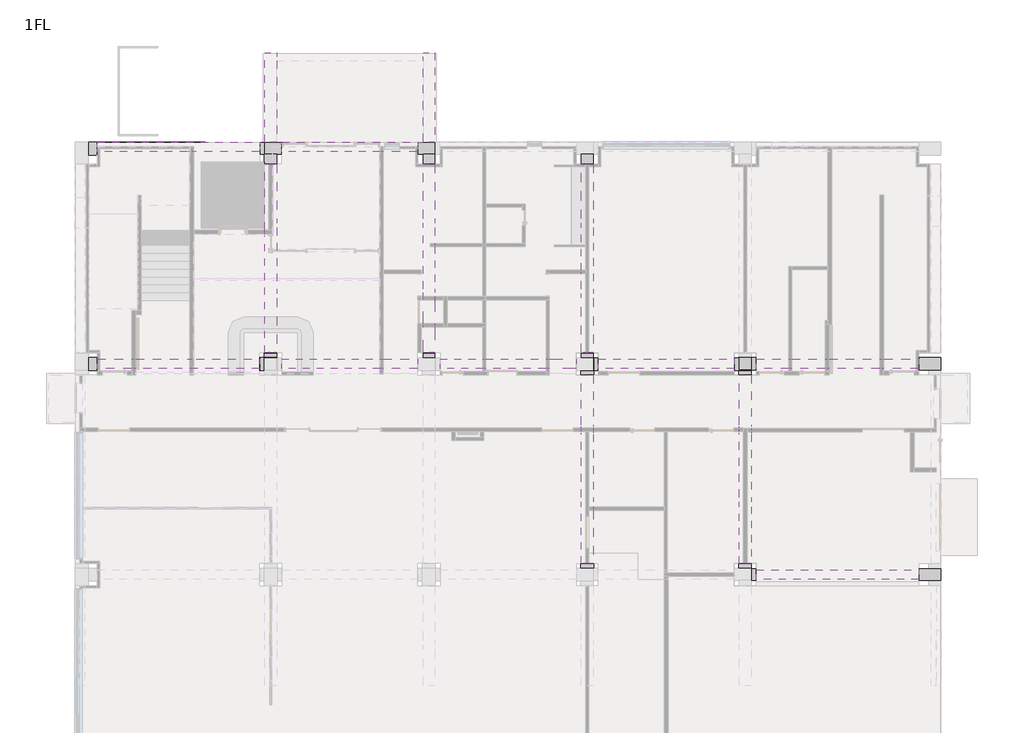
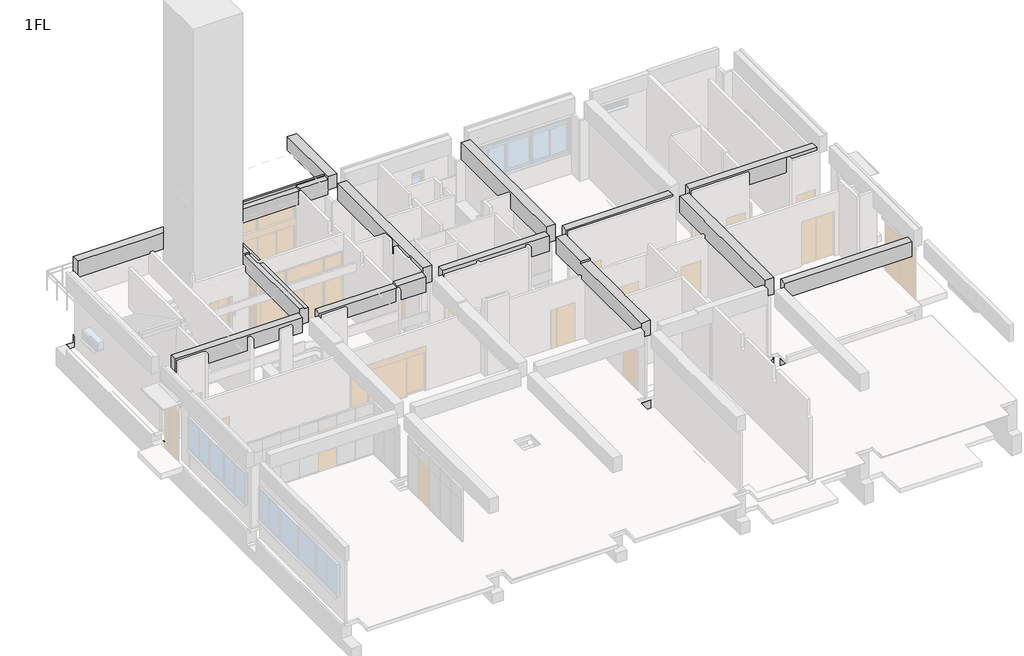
# One storey, part 6 of 7: 41 beams.
"""IFC4 building model written with IfcOpenShell, lengths in millimetres."""

from ifc_helpers import new_model, si_unit, frame, origin, place, context, project, spatial, polyline, outline, extrude, faceted_brep, element, save

model = new_model("IFC4")

# Units and contexts
model_context = context("Model", 3, world=origin())
ifc_project = project(units=[si_unit("LENGTHUNIT", "METRE", prefix="MILLI")], contexts=[model_context])

# Site, building, storey
site = spatial("IfcSite", under=ifc_project)
building = spatial("IfcBuilding", under=site)
storey = spatial("IfcBuildingStorey", under=building, Name="1FL", Elevation=0.0)

# Beams
placement = place(None, origin())
element("IfcBeam", 1, ObjectType="営_RC梁 : 2-RG2 350*850", at=placement, inside=storey, context=model_context, shape_type="SweptSolid", body=[
    extrude(outline(polyline([(25420.0, 7825.0), (25420.0, 8175.0), (31580.0, 8175.0), (31580.0, 7825.0), (25420.0, 7825.0)])), frame((0.0, 0.0, 3150.0), z_axis=(0.0, 0.0, 1.0), x_axis=(1.0, 0.0, 0.0)), (0.0, 0.0, 1.0), 790.0),
])
element("IfcBeam", 2, ObjectType="営_RC梁 : 2-RG2 350*850", at=placement, inside=storey, context=model_context, shape_type="Brep", body=[
    faceted_brep([(420.0, 15825.0, 3150.0), (1725.0, 15825.0, 3150.0), (1875.0, 15825.0, 3150.0), (6580.0, 15825.0, 3150.0), (6580.0, 15825.0, 3940.0), (420.0, 15825.0, 3940.0), (6580.0, 16175.0, 3150.0), (420.0, 16175.0, 3150.0), (1725.0, 16175.0, 3150.0), (1875.0, 16175.0, 3150.0), (420.0, 16175.0, 3940.0), (3825.0, 16175.0, 3940.0), (4175.0, 16175.0, 3940.0), (6580.0, 16175.0, 3940.0)], [[[0, 1, 2, 3, 4, 5]], [[6, 3, 2, 1, 0, 7, 8, 9]], [[6, 9, 8, 7, 10, 11, 12, 13]], [[3, 6, 13, 4]], [[7, 0, 5, 10]], [[5, 4, 13, 12, 11, 10]]]),
])
element("IfcBeam", 3, ObjectType="営_RC梁 : 2-RG2 350*850", at=placement, inside=storey, context=model_context, shape_type="Brep", body=[
    faceted_brep([(7420.0, 15825.0, 3150.0), (11140.0, 15825.0, 3150.0), (11260.0, 15825.0, 3150.0), (12580.0, 15825.0, 3150.0), (12580.0, 15825.0, 3940.0), (11200.0, 15825.0, 3940.0), (11200.0, 15825.0, 3850.0), (11140.0, 15825.0, 3850.0), (7420.0, 15825.0, 3850.0), (7420.0, 16175.0, 3150.0), (11140.0, 16175.0, 3150.0), (11260.0, 16175.0, 3150.0), (12580.0, 16175.0, 3150.0), (7420.0, 16175.0, 3850.0), (11140.0, 16175.0, 3850.0), (11200.0, 16175.0, 3850.0), (11200.0, 16175.0, 3940.0), (12580.0, 16175.0, 3940.0)], [[[0, 1, 2, 3, 4, 5, 6, 7, 8]], [[0, 9, 10, 11, 12, 3, 2, 1]], [[12, 11, 10, 9, 13, 14, 15, 16, 17]], [[9, 0, 8, 13]], [[3, 12, 17, 4]], [[6, 15, 14, 13, 8, 7]], [[15, 6, 5, 16]], [[5, 4, 17, 16]]]),
])
element("IfcBeam", 4, ObjectType="営_RC梁 : 2-RG2 350*850", at=placement, inside=storey, context=model_context, shape_type="Brep", body=[
    faceted_brep([(13420.0, 15825.0, 3150.0), (15040.0, 15825.0, 3150.0), (15160.0, 15825.0, 3150.0), (17440.0, 15825.0, 3150.0), (17560.0, 15825.0, 3150.0), (18580.0, 15825.0, 3150.0), (18580.0, 15825.0, 3940.0), (13420.0, 15825.0, 3940.0), (13420.0, 16175.0, 3150.0), (15040.0, 16175.0, 3150.0), (15160.0, 16175.0, 3150.0), (17440.0, 16175.0, 3150.0), (17560.0, 16175.0, 3150.0), (18580.0, 16175.0, 3150.0), (13420.0, 16175.0, 3940.0), (18580.0, 16175.0, 3940.0)], [[[0, 1, 2, 3, 4, 5, 6, 7]], [[0, 8, 9, 10, 11, 12, 13, 5, 4, 3, 2, 1]], [[13, 12, 11, 10, 9, 8, 14, 15]], [[8, 0, 7, 14]], [[5, 13, 15, 6]], [[7, 6, 15, 14]]]),
])
element("IfcBeam", 5, ObjectType="営_RC梁 : 2-RG2 350*850", at=placement, inside=storey, context=model_context, shape_type="SweptSolid", body=[
    extrude(outline(polyline([(19420.0, 15825.0), (19420.0, 16175.0), (24580.0, 16175.0), (24580.0, 15825.0), (19420.0, 15825.0)])), frame((0.0, 0.0, 3150.0), z_axis=(0.0, 0.0, 1.0), x_axis=(1.0, 0.0, 0.0)), (0.0, 0.0, 1.0), 790.0),
])
element("IfcBeam", 6, ObjectType="営_RC梁 : 2-RG2 350*850", at=placement, inside=storey, context=model_context, shape_type="Brep", body=[
    faceted_brep([(25420.0, 15825.0, 3150.0), (26640.0, 15825.0, 3150.0), (26760.0, 15825.0, 3150.0), (28025.0, 15825.0, 3150.0), (28175.0, 15825.0, 3150.0), (30105.0, 15825.0, 3150.0), (30255.0, 15825.0, 3150.0), (31580.0, 15825.0, 3150.0), (31580.0, 15825.0, 3940.0), (25420.0, 15825.0, 3940.0), (25420.0, 16175.0, 3150.0), (26640.0, 16175.0, 3150.0), (26760.0, 16175.0, 3150.0), (28025.0, 16175.0, 3150.0), (28175.0, 16175.0, 3150.0), (30105.0, 16175.0, 3150.0), (30255.0, 16175.0, 3150.0), (31580.0, 16175.0, 3150.0), (25420.0, 16175.0, 3940.0), (31580.0, 16175.0, 3940.0)], [[[0, 1, 2, 3, 4, 5, 6, 7, 8, 9]], [[0, 10, 11, 12, 13, 14, 15, 16, 17, 7, 6, 5, 4, 3, 2, 1]], [[17, 16, 15, 14, 13, 12, 11, 10, 18, 19]], [[10, 0, 9, 18]], [[7, 17, 19, 8]], [[9, 8, 19, 18]]]),
])
element("IfcBeam", 7, ObjectType="営_RC梁 : 2-RG1 350*850", at=placement, inside=storey, context=model_context, shape_type="Brep", body=[
    faceted_brep([(420.0, 24050.0, 4000.0), (420.0, 24420.0, 4000.0), (420.0, 24420.0, 3150.0), (420.0, 24250.0, 3150.0), (420.0, 24050.0, 3150.0), (3925.0, 24050.0, 3150.0), (4075.0, 24050.0, 3150.0), (6580.0, 24050.0, 3150.0), (6580.0, 24050.0, 4000.0), (4175.0, 24050.0, 4000.0), (3825.0, 24050.0, 4000.0), (6580.0, 24420.0, 3150.0), (6580.0, 24250.0, 3150.0), (6580.0, 24420.0, 4000.0)], [[[0, 1, 2, 3, 4]], [[0, 4, 5, 6, 7, 8, 9, 10]], [[4, 3, 2, 11, 12, 7, 6, 5]], [[2, 1, 13, 11]], [[1, 0, 10, 9, 8, 13]], [[8, 7, 12, 11, 13]]]),
])
element("IfcBeam", 8, ObjectType="営_RC梁 : 2-RG1 350*850", at=placement, inside=storey, context=model_context, shape_type="Brep", body=[
    faceted_brep([(7420.0, 24420.0, 4000.0), (7420.0, 24420.0, 3150.0), (7420.0, 24250.0, 3150.0), (7420.0, 24050.0, 3150.0), (7420.0, 24050.0, 3850.0), (7420.0, 24250.0, 3850.0), (7420.0, 24335.0, 3850.0), (7420.0, 24335.0, 4000.0), (11140.0, 24050.0, 3150.0), (11260.0, 24050.0, 3150.0), (12580.0, 24050.0, 3150.0), (12580.0, 24050.0, 3940.0), (11200.0, 24050.0, 3940.0), (11200.0, 24050.0, 3850.0), (11140.0, 24050.0, 3850.0), (12580.0, 24420.0, 3150.0), (12580.0, 24250.0, 3150.0), (12580.0, 24420.0, 4000.0), (12580.0, 24335.0, 4000.0), (12580.0, 24335.0, 3940.0), (12580.0, 24250.0, 3940.0), (11200.0, 24335.0, 3850.0), (11200.0, 24250.0, 3850.0), (11200.0, 24250.0, 3940.0), (11200.0, 24335.0, 3940.0)], [[[0, 1, 2, 3, 4, 5, 6, 7]], [[3, 8, 9, 10, 11, 12, 13, 14, 4]], [[3, 2, 1, 15, 16, 10, 9, 8]], [[1, 0, 17, 15]], [[17, 0, 7, 18]], [[10, 16, 15, 17, 18, 19, 20, 11]], [[21, 6, 5, 4, 14, 13, 22]], [[21, 22, 13, 12, 23, 24]], [[6, 21, 24, 19, 18, 7]], [[19, 24, 23, 12, 11, 20]]]),
])
element("IfcBeam", 9, ObjectType="営_RC梁 : 2-4G12 450*900", at=placement, inside=storey, context=model_context, shape_type="Brep", body=[
    faceted_brep([(7225.0, 16420.0, 3100.0), (7225.0, 23580.0, 3100.0), (7225.0, 23580.0, 3850.0), (7225.0, 21515.0, 3850.0), (7225.0, 21165.0, 3850.0), (7225.0, 18845.0, 3850.0), (7225.0, 18495.0, 3850.0), (7225.0, 16420.0, 3850.0), (6775.0, 16420.0, 3100.0), (6775.0, 20925.0, 3100.0), (6775.0, 21075.0, 3100.0), (6775.0, 23580.0, 3100.0), (6925.0, 23580.0, 3100.0), (7075.0, 23580.0, 3100.0), (6775.0, 23580.0, 4000.0), (6775.0, 16420.0, 3940.0), (6775.0, 20825.0, 3940.0), (6775.0, 21000.0, 3940.0), (6775.0, 21000.0, 4000.0), (6775.0, 21075.0, 4000.0), (7000.0, 23580.0, 4000.0), (7000.0, 21000.0, 4000.0), (7000.0, 16420.0, 3850.0), (7000.0, 16420.0, 3940.0), (7000.0, 23580.0, 3850.0), (7000.0, 21000.0, 3940.0)], [[[0, 1, 2, 3, 4, 5, 6, 7]], [[0, 8, 9, 10, 11, 12, 13, 1]], [[14, 11, 10, 9, 8, 15, 16, 17, 18, 19]], [[20, 14, 19, 18, 21]], [[8, 0, 7, 22, 23, 15]], [[1, 13, 12, 11, 14, 20, 24, 2]], [[24, 22, 7, 6, 5, 4, 3, 2]], [[22, 24, 20, 21, 25, 23]], [[25, 17, 16, 15, 23]], [[17, 25, 21, 18]]]),
])
element("IfcBeam", 10, ObjectType="営_RC梁 : 2-4G12 450*900", at=placement, inside=storey, context=model_context, shape_type="Brep", body=[
    faceted_brep([(13225.0, 16420.0, 3100.0), (13225.0, 17400.0, 3100.0), (13225.0, 17520.0, 3100.0), (13225.0, 18430.0, 3100.0), (13225.0, 18550.0, 3100.0), (13225.0, 20450.0, 3100.0), (13225.0, 20570.0, 3100.0), (13225.0, 23580.0, 3100.0), (13225.0, 23580.0, 3940.0), (13225.0, 21515.0, 3940.0), (13225.0, 21165.0, 3940.0), (13225.0, 18845.0, 3940.0), (13225.0, 18495.0, 3940.0), (13225.0, 16420.0, 3940.0), (12775.0, 16420.0, 3100.0), (12775.0, 17400.0, 3100.0), (12775.0, 17520.0, 3100.0), (12775.0, 18430.0, 3100.0), (12775.0, 18550.0, 3100.0), (12775.0, 23580.0, 3100.0), (12775.0, 16420.0, 3940.0), (12775.0, 18495.0, 3940.0), (12775.0, 18845.0, 3940.0), (12775.0, 21165.0, 3940.0), (12775.0, 21515.0, 3940.0), (12775.0, 23580.0, 3940.0)], [[[0, 1, 2, 3, 4, 5, 6, 7, 8, 9, 10, 11, 12, 13]], [[0, 14, 15, 16, 17, 18, 19, 7, 6, 5, 4, 3, 2, 1]], [[19, 18, 17, 16, 15, 14, 20, 21, 22, 23, 24, 25]], [[14, 0, 13, 20]], [[7, 19, 25, 8]], [[13, 12, 11, 10, 9, 8, 25, 24, 23, 22, 21, 20]]]),
])
element("IfcBeam", 11, ObjectType="営_RC梁 : 2-4G12 450*900", at=placement, inside=storey, context=model_context, shape_type="Brep", body=[
    faceted_brep([(19225.0, 8420.0, 3100.0), (19225.0, 10440.0, 3100.0), (19225.0, 10560.0, 3100.0), (19225.0, 13440.0, 3100.0), (19225.0, 13560.0, 3100.0), (19225.0, 15580.0, 3100.0), (19225.0, 15580.0, 3940.0), (19225.0, 13675.0, 3940.0), (19225.0, 13500.0, 3940.0), (19225.0, 13500.0, 3850.0), (19225.0, 13325.0, 3850.0), (19225.0, 10925.0, 3850.0), (19225.0, 10575.0, 3850.0), (19225.0, 10560.0, 3850.0), (19225.0, 10440.0, 3850.0), (19225.0, 8420.0, 3850.0), (19060.0, 8420.0, 3100.0), (18940.0, 8420.0, 3100.0), (18775.0, 8420.0, 3100.0), (18775.0, 13440.0, 3100.0), (18775.0, 13560.0, 3100.0), (18775.0, 15580.0, 3100.0), (18775.0, 8420.0, 3850.0), (18775.0, 10575.0, 3850.0), (18775.0, 10925.0, 3850.0), (18775.0, 13325.0, 3850.0), (18775.0, 13500.0, 3850.0), (18775.0, 13500.0, 3940.0), (18775.0, 13675.0, 3940.0), (18775.0, 15580.0, 3940.0)], [[[0, 1, 2, 3, 4, 5, 6, 7, 8, 9, 10, 11, 12, 13, 14, 15]], [[0, 16, 17, 18, 19, 20, 21, 5, 4, 3, 2, 1]], [[21, 20, 19, 18, 22, 23, 24, 25, 26, 27, 28, 29]], [[18, 17, 16, 0, 15, 22]], [[5, 21, 29, 6]], [[9, 26, 25, 24, 23, 22, 15, 14, 13, 12, 11, 10]], [[26, 9, 8, 27]], [[8, 7, 6, 29, 28, 27]]]),
])
element("IfcBeam", 12, ObjectType="営_RC梁 : 2-4G12 450*900", at=placement, inside=storey, context=model_context, shape_type="Brep", body=[
    faceted_brep([(19225.0, 16420.0, 3100.0), (19225.0, 23580.0, 3100.0), (19225.0, 23580.0, 3940.0), (19225.0, 21515.0, 3940.0), (19225.0, 21165.0, 3940.0), (19225.0, 18845.0, 3940.0), (19225.0, 18495.0, 3940.0), (19225.0, 16420.0, 3940.0), (19060.0, 16420.0, 3100.0), (18940.0, 16420.0, 3100.0), (18775.0, 16420.0, 3100.0), (18775.0, 19430.0, 3100.0), (18775.0, 19550.0, 3100.0), (18775.0, 23580.0, 3100.0), (18940.0, 23580.0, 3100.0), (19060.0, 23580.0, 3100.0), (18775.0, 16420.0, 3940.0), (18775.0, 18495.0, 3940.0), (18775.0, 18845.0, 3940.0), (18775.0, 21165.0, 3940.0), (18775.0, 21515.0, 3940.0), (18775.0, 23580.0, 3940.0)], [[[0, 1, 2, 3, 4, 5, 6, 7]], [[0, 8, 9, 10, 11, 12, 13, 14, 15, 1]], [[13, 12, 11, 10, 16, 17, 18, 19, 20, 21]], [[10, 9, 8, 0, 7, 16]], [[1, 15, 14, 13, 21, 2]], [[7, 6, 5, 4, 3, 2, 21, 20, 19, 18, 17, 16]]]),
])
element("IfcBeam", 13, ObjectType="営_RC梁 : 2-4G12 450*900", at=placement, inside=storey, context=model_context, shape_type="Brep", body=[
    faceted_brep([(25225.0, 8420.0, 3100.0), (25225.0, 13405.0, 3100.0), (25225.0, 13555.0, 3100.0), (25225.0, 15580.0, 3100.0), (25225.0, 15580.0, 3940.0), (25225.0, 13675.0, 3940.0), (25225.0, 13325.0, 3940.0), (25225.0, 10925.0, 3940.0), (25225.0, 10575.0, 3940.0), (25225.0, 8420.0, 3940.0), (25075.0, 8420.0, 3100.0), (24925.0, 8420.0, 3100.0), (24775.0, 8420.0, 3100.0), (24775.0, 13440.0, 3100.0), (24775.0, 13560.0, 3100.0), (24775.0, 15580.0, 3100.0), (24775.0, 8420.0, 3940.0), (24775.0, 10575.0, 3940.0), (24775.0, 10925.0, 3940.0), (24775.0, 13325.0, 3940.0), (24775.0, 13675.0, 3940.0), (24775.0, 15580.0, 3940.0)], [[[0, 1, 2, 3, 4, 5, 6, 7, 8, 9]], [[0, 10, 11, 12, 13, 14, 15, 3, 2, 1]], [[15, 14, 13, 12, 16, 17, 18, 19, 20, 21]], [[12, 11, 10, 0, 9, 16]], [[3, 15, 21, 4]], [[9, 8, 7, 6, 5, 4, 21, 20, 19, 18, 17, 16]]]),
])
element("IfcBeam", 14, ObjectType="営_RC梁 : FG1 450*1200", at=placement, inside=storey, context=model_context, shape_type="Brep", body=[
    faceted_brep([(420.0, 23930.0, -400.0), (400.0, 23930.0, -400.0), (70.0, 23930.0, -400.0), (70.0, 23930.0, -1300.0), (1500.0, 23930.0, -1300.0), (4124.0, 23930.0, -1300.0), (4514.0, 23930.0, -1300.0), (4514.0, 23930.0, -10.0), (4124.0, 23930.0, -10.0), (4075.0, 23930.0, -10.0), (4075.0, 23930.0, -160.0), (420.0, 23930.0, -160.0), (70.0, 24420.0, -1300.0), (1500.0, 24420.0, -1300.0), (4124.0, 24420.0, -1300.0), (4514.0, 24420.0, -1300.0), (4514.0, 24400.0, -1300.0), (4514.0, 23950.0, -1300.0), (420.0, 24420.0, -400.0), (420.0, 24420.0, -10.0), (4514.0, 24420.0, -10.0), (4514.0, 24420.0, -300.0), (70.0, 24420.0, -400.0), (4514.0, 24250.0, -10.0), (420.0, 24250.0, -10.0), (4075.0, 24250.0, -10.0), (420.0, 24250.0, -160.0), (4075.0, 24250.0, -160.0)], [[[0, 1, 2, 3, 4, 5, 6, 7, 8, 9, 10, 11]], [[3, 12, 13, 14, 15, 16, 17, 6, 5, 4]], [[18, 19, 20, 21, 15, 14, 13, 12, 22]], [[7, 23, 20, 19, 24, 25, 9, 8]], [[0, 18, 22, 2, 1]], [[18, 0, 11, 26, 24, 19]], [[3, 2, 22, 12]], [[7, 6, 17, 16, 15, 21, 20, 23]], [[27, 26, 11, 10]], [[25, 27, 10, 9]], [[27, 25, 24, 26]]]),
])
element("IfcBeam", 15, ObjectType="営_RC梁 : FG2 450*1200", at=placement, inside=storey, context=model_context, shape_type="Brep", body=[
    faceted_brep([(7227.3929084, 15755.0, -950.0), (6755.0, 15755.0, -950.0), (6600.0, 15755.0, -950.0), (6580.0, 15755.0, -950.0), (6580.0, 15755.0, -160.0), (420.0, 15755.0, -160.0), (420.0, 15755.0, -400.0), (400.0, 15755.0, -400.0), (70.0, 15755.0, -400.0), (70.0, 15755.0, -1300.0), (1500.0, 15755.0, -1300.0), (5350.0, 15755.0, -1300.0), (6755.0, 15755.0, -1300.0), (7227.3929084, 15755.0, -1300.0), (7225.0, 16245.0, -1300.0), (7225.0, 16000.0, -1300.0), (7227.3929084, 16000.0, -1300.0), (70.0, 16245.0, -1300.0), (1500.0, 16245.0, -1300.0), (5350.0, 16245.0, -1300.0), (6755.0, 16245.0, -1300.0), (6580.0, 16245.0, -950.0), (6600.0, 16245.0, -950.0), (6755.0, 16245.0, -950.0), (7225.0, 16245.0, -950.0), (70.0, 16245.0, -400.0), (400.0, 16245.0, -400.0), (420.0, 16245.0, -400.0), (420.0, 16245.0, -160.0), (6580.0, 16245.0, -160.0), (7227.3929084, 16000.0, -950.0), (7225.0, 16000.0, -950.0), (7225.0, 16225.0, -950.0)], [[[0, 1, 2, 3, 4, 5, 6, 7, 8, 9, 10, 11, 12, 13]], [[14, 15, 16, 13, 12, 11, 10, 9, 17, 18, 19, 20]], [[21, 22, 23, 24, 14, 20, 19, 18, 17, 25, 26, 27, 28, 29]], [[13, 16, 30, 0]], [[21, 3, 2, 1, 0, 30, 31, 32, 24, 23, 22]], [[3, 21, 29, 4]], [[6, 27, 26, 25, 8, 7]], [[27, 6, 5, 28]], [[15, 14, 24, 32, 31]], [[9, 8, 25, 17]], [[16, 15, 31, 30]], [[5, 4, 29, 28]]]),
])
element("IfcBeam", 16, ObjectType="営_RC梁 : FG3 450*1850", at=placement, inside=storey, context=model_context, shape_type="Brep", body=[
    faceted_brep([(19420.0, 15755.0, -950.0), (19400.0, 15755.0, -950.0), (19245.0, 15755.0, -950.0), (18772.6070916, 15755.0, -950.0), (18772.6070916, 15755.0, -1950.0), (20650.0, 15755.0, -1950.0), (23350.0, 15755.0, -1950.0), (24755.0, 15755.0, -1950.0), (25225.0, 15755.0, -1950.0), (25225.0, 15755.0, -1500.0), (24755.0, 15755.0, -1500.0), (24600.0, 15755.0, -1500.0), (24580.0, 15755.0, -1500.0), (24580.0, 15755.0, -250.0), (19420.0, 15755.0, -250.0), (24755.0, 15775.0, -1950.0), (25225.0, 15775.0, -1950.0), (18772.6070916, 16000.0, -1950.0), (18775.0, 16000.0, -1950.0), (18775.0, 16225.0, -1950.0), (19225.0, 16225.0, -1950.0), (20650.0, 16225.0, -1950.0), (23350.0, 16225.0, -1950.0), (24755.0, 16225.0, -1950.0), (18775.0, 16225.0, -950.0), (19225.0, 16225.0, -950.0), (19400.0, 16225.0, -950.0), (19420.0, 16225.0, -950.0), (19420.0, 16225.0, -250.0), (24580.0, 16225.0, -250.0), (24580.0, 16225.0, -1500.0), (24600.0, 16225.0, -1500.0), (24755.0, 16225.0, -1500.0), (18772.6070916, 16000.0, -950.0), (18775.0, 16000.0, -950.0), (25225.0, 15775.0, -1500.0), (24755.0, 15775.0, -1500.0)], [[[0, 1, 2, 3, 4, 5, 6, 7, 8, 9, 10, 11, 12, 13, 14]], [[15, 16, 8, 7, 6, 5, 4, 17, 18, 19, 20, 21, 22, 23]], [[24, 25, 26, 27, 28, 29, 30, 31, 32, 23, 22, 21, 20, 19]], [[17, 4, 3, 33]], [[0, 27, 26, 25, 24, 34, 33, 3, 2, 1]], [[27, 0, 14, 28]], [[12, 30, 29, 13]], [[9, 8, 16, 35]], [[30, 12, 11, 10, 9, 35, 36, 32, 31]], [[16, 15, 36, 35]], [[15, 23, 32, 36]], [[18, 17, 33, 34]], [[19, 18, 34, 24]], [[14, 13, 29, 28]]]),
])
element("IfcBeam", 17, ObjectType="営_RC梁 : FG4 450*2400", at=placement, inside=storey, context=model_context, shape_type="Brep", body=[
    faceted_brep([(25420.0, 15775.0, -1500.0), (25400.0, 15775.0, -1500.0), (25225.0, 15775.0, -1500.0), (24755.0, 15775.0, -1500.0), (24755.0, 15775.0, -1950.0), (24755.0, 15775.0, -2500.0), (25225.0, 15775.0, -2500.0), (26650.0, 15775.0, -2500.0), (30650.0, 15775.0, -2500.0), (31950.0, 15775.0, -2500.0), (32420.0, 15775.0, -2500.0), (32420.0, 15775.0, -1900.0), (31950.0, 15775.0, -1900.0), (31600.0, 15775.0, -1900.0), (31580.0, 15775.0, -1900.0), (31580.0, 15775.0, -160.0), (25420.0, 15775.0, -160.0), (32420.0, 16245.0, -2500.0), (24755.0, 16245.0, -2500.0), (26650.0, 16245.0, -2500.0), (30650.0, 16245.0, -2500.0), (24755.0, 16245.0, -1500.0), (24775.0, 16245.0, -1500.0), (25225.0, 16245.0, -1500.0), (25400.0, 16245.0, -1500.0), (25420.0, 16245.0, -1500.0), (25420.0, 16245.0, -160.0), (28025.0, 16245.0, -160.0), (28395.0, 16245.0, -160.0), (31580.0, 16245.0, -160.0), (31580.0, 16245.0, -1900.0), (31600.0, 16245.0, -1900.0), (32400.0, 16245.0, -1900.0), (32420.0, 16245.0, -1900.0), (32420.0, 16245.0, -1904.2105263), (24755.0, 16225.0, -1500.0)], [[[0, 1, 2, 3, 4, 5, 6, 7, 8, 9, 10, 11, 12, 13, 14, 15, 16]], [[17, 10, 9, 8, 7, 6, 5, 18, 19, 20]], [[21, 22, 23, 24, 25, 26, 27, 28, 29, 30, 31, 32, 33, 34, 17, 20, 19, 18]], [[25, 0, 16, 26]], [[14, 30, 29, 15]], [[10, 17, 34, 33, 11]], [[0, 25, 24, 23, 22, 21, 35, 3, 2, 1]], [[30, 14, 13, 12, 11, 33, 32, 31]], [[18, 5, 4, 3, 35, 21]], [[16, 15, 29, 28, 27, 26]]]),
])
element("IfcBeam", 18, ObjectType="営_RC梁 : FG4 450*2400", at=placement, inside=storey, context=model_context, shape_type="Brep", body=[
    faceted_brep([(24775.0, 7775.0, -1500.0), (24775.0, 7775.0, -2500.0), (25225.0, 7775.0, -2500.0), (26650.0, 7775.0, -2500.0), (26650.0, 7775.0, -2300.0), (30500.0, 7775.0, -2300.0), (30500.0, 7775.0, -2500.0), (31950.0, 7775.0, -2500.0), (32420.0, 7775.0, -2500.0), (32420.0, 7775.0, -1500.0), (31950.0, 7775.0, -1500.0), (31600.0, 7775.0, -1500.0), (31580.0, 7775.0, -1500.0), (31580.0, 7775.0, -160.0), (25420.0, 7775.0, -160.0), (25420.0, 7775.0, -1500.0), (25400.0, 7775.0, -1500.0), (25225.0, 7775.0, -1500.0), (32420.0, 8225.0, -2500.0), (30500.0, 8225.0, -2500.0), (31950.0, 8225.0, -2500.0), (24775.0, 8225.0, -2500.0), (24775.0, 8225.0, -1500.0), (25225.0, 8225.0, -1500.0), (25400.0, 8225.0, -1500.0), (25420.0, 8225.0, -1500.0), (25420.0, 8225.0, -160.0), (31580.0, 8225.0, -160.0), (31580.0, 8225.0, -1500.0), (31600.0, 8225.0, -1500.0), (31950.0, 8225.0, -1500.0), (32420.0, 8225.0, -1500.0), (30500.0, 8225.0, -2300.0), (26650.0, 8225.0, -2300.0), (26650.0, 8225.0, -2500.0), (25225.0, 8225.0, -2500.0)], [[[0, 1, 2, 3, 4, 5, 6, 7, 8, 9, 10, 11, 12, 13, 14, 15, 16, 17]], [[18, 8, 7, 6, 19, 20]], [[21, 22, 23, 24, 25, 26, 27, 28, 29, 30, 31, 18, 20, 19, 32, 33, 34, 35]], [[25, 15, 14, 26]], [[12, 28, 27, 13]], [[21, 1, 0, 22]], [[8, 18, 31, 9]], [[15, 25, 24, 23, 22, 0, 17, 16]], [[28, 12, 11, 10, 9, 31, 30, 29]], [[32, 5, 4, 33]], [[5, 32, 19, 6]], [[33, 4, 3, 34]], [[1, 21, 35, 34, 3, 2]], [[14, 13, 27, 26]]]),
])
element("IfcBeam", 19, ObjectType="営_RC梁 : FG3 450*1850", at=placement, inside=storey, context=model_context, shape_type="Brep", body=[
    faceted_brep([(7420.0, 23950.0, -950.0), (7225.0, 23950.0, -950.0), (6755.0, 23950.0, -950.0), (6755.0, 23950.0, -1300.0), (6755.0, 23950.0, -1950.0), (7225.0, 23950.0, -1950.0), (8500.0, 23950.0, -1950.0), (11650.0, 23950.0, -1950.0), (12775.0, 23950.0, -1950.0), (13225.0, 23950.0, -1950.0), (13225.0, 23950.0, -1350.0), (12775.0, 23950.0, -1350.0), (12600.0, 23950.0, -1350.0), (12580.0, 23950.0, -1350.0), (12580.0, 23950.0, -160.0), (11375.0, 23950.0, -160.0), (11025.0, 23950.0, -160.0), (7420.0, 23950.0, -160.0), (6755.0, 24420.0, -1950.0), (8500.0, 24420.0, -1950.0), (11650.0, 24420.0, -1950.0), (13225.0, 24420.0, -1950.0), (6755.0, 24420.0, -950.0), (7420.0, 24420.0, -950.0), (7420.0, 24420.0, -10.0), (11340.0, 24420.0, -10.0), (11860.0, 24420.0, -10.0), (12580.0, 24420.0, -10.0), (12580.0, 24420.0, -1350.0), (13225.0, 24420.0, -1350.0), (6755.0, 24420.0, -1455.4545455), (7420.0, 24250.0, -10.0), (12580.0, 24250.0, -10.0), (6755.0, 24400.0, -950.0), (7420.0, 24250.0, -160.0), (12580.0, 24250.0, -160.0)], [[[0, 1, 2, 3, 4, 5, 6, 7, 8, 9, 10, 11, 12, 13, 14, 15, 16, 17]], [[4, 18, 19, 20, 21, 9, 8, 7, 6, 5]], [[22, 23, 24, 25, 26, 27, 28, 29, 21, 20, 19, 18, 30]], [[27, 26, 25, 24, 31, 32]], [[0, 23, 22, 33, 2, 1]], [[23, 0, 17, 34, 31, 24]], [[28, 27, 32, 35, 14, 13]], [[18, 4, 3, 2, 33, 22, 30]], [[9, 21, 29, 10]], [[28, 13, 12, 11, 10, 29]], [[35, 34, 17, 16, 15, 14]], [[34, 35, 32, 31]]]),
])
element("IfcBeam", 20, ObjectType="営_RC梁 : FG13 450*1850", at=placement, inside=storey, context=model_context, shape_type="Brep", body=[
    faceted_brep([(7225.0, 16420.0, -950.0), (7225.0, 16400.0, -950.0), (7225.0, 16225.0, -950.0), (7225.0, 15755.0, -950.0), (7225.0, 15755.0, -1300.0), (7225.0, 15755.0, -1950.0), (7225.0, 16225.0, -1950.0), (7225.0, 17650.0, -1950.0), (7225.0, 22500.0, -1950.0), (7225.0, 23950.0, -1950.0), (7225.0, 23950.0, -1450.0), (7225.0, 23950.0, -950.0), (7225.0, 23580.0, -950.0), (7225.0, 23580.0, -160.0), (7225.0, 16420.0, -160.0), (6755.0, 15755.0, -1950.0), (6755.0, 17650.0, -1950.0), (6755.0, 22500.0, -1950.0), (6755.0, 23950.0, -1950.0), (6755.0, 15755.0, -950.0), (6755.0, 16245.0, -950.0), (6755.0, 16400.0, -950.0), (6755.0, 16420.0, -950.0), (6755.0, 16420.0, -160.0), (6755.0, 21075.0, -160.0), (6755.0, 21075.0, -10.0), (6755.0, 23580.0, -10.0), (6755.0, 23580.0, -950.0), (6755.0, 23950.0, -950.0), (6755.0, 15755.0, -1300.0), (6925.0, 23580.0, -10.0), (6925.0, 21075.0, -10.0), (6925.0, 23580.0, -160.0), (6925.0, 21075.0, -160.0)], [[[0, 1, 2, 3, 4, 5, 6, 7, 8, 9, 10, 11, 12, 13, 14]], [[5, 15, 16, 17, 18, 9, 8, 7, 6]], [[19, 20, 21, 22, 23, 24, 25, 26, 27, 28, 18, 17, 16, 15, 29]], [[30, 26, 25, 31]], [[15, 5, 4, 3, 19, 29]], [[0, 22, 21, 20, 19, 3, 2, 1]], [[22, 0, 14, 23]], [[27, 12, 11, 28]], [[12, 27, 26, 30, 32, 13]], [[11, 10, 9, 18, 28]], [[32, 33, 24, 23, 14, 13]], [[33, 31, 25, 24]], [[31, 33, 32, 30]]]),
])
element("IfcBeam", 21, ObjectType="営_RC梁 : FG13 450*1850", at=placement, inside=storey, context=model_context, shape_type="Brep", body=[
    faceted_brep([(13225.0, 16420.0, -950.0), (13225.0, 16400.0, -950.0), (13225.0, 16225.0, -950.0), (13225.0, 15755.0, -950.0), (13225.0, 15755.0, -1300.0), (13225.0, 15755.0, -1950.0), (13225.0, 16225.0, -1950.0), (13225.0, 17650.0, -1950.0), (13225.0, 22650.0, -1950.0), (13225.0, 23950.0, -1950.0), (13225.0, 23950.0, -1350.0), (13225.0, 23600.0, -1350.0), (13225.0, 23580.0, -1350.0), (13225.0, 23580.0, -160.0), (13225.0, 21515.0, -160.0), (13225.0, 21165.0, -160.0), (13225.0, 18845.0, -160.0), (13225.0, 18495.0, -160.0), (13225.0, 16420.0, -160.0), (12775.0, 15755.0, -1950.0), (12775.0, 16225.0, -1950.0), (12775.0, 17650.0, -1950.0), (12775.0, 22650.0, -1950.0), (12775.0, 23950.0, -1950.0), (12775.0, 15755.0, -950.0), (12775.0, 16225.0, -950.0), (12775.0, 16400.0, -950.0), (12775.0, 16420.0, -950.0), (12775.0, 16420.0, -160.0), (12775.0, 23580.0, -160.0), (12775.0, 23580.0, -1350.0), (12775.0, 23600.0, -1350.0), (12775.0, 23950.0, -1350.0)], [[[0, 1, 2, 3, 4, 5, 6, 7, 8, 9, 10, 11, 12, 13, 14, 15, 16, 17, 18]], [[5, 19, 20, 21, 22, 23, 9, 8, 7, 6]], [[24, 25, 26, 27, 28, 29, 30, 31, 32, 23, 22, 21, 20, 19]], [[19, 5, 4, 3, 24]], [[0, 27, 26, 25, 24, 3, 2, 1]], [[27, 0, 18, 28]], [[12, 30, 29, 13]], [[30, 12, 11, 10, 32, 31]], [[10, 9, 23, 32]], [[18, 17, 16, 15, 14, 13, 29, 28]]]),
])
element("IfcBeam", 22, ObjectType="営_RC梁 : FG12 450*1200", at=placement, inside=storey, context=model_context, shape_type="Brep", body=[
    faceted_brep([(19245.0, 7775.0, -1300.0), (19245.0, 8245.0, -1300.0), (19245.0, 9650.0, -1300.0), (19245.0, 14350.0, -1300.0), (19245.0, 15755.0, -1300.0), (19245.0, 16225.0, -1300.0), (19245.0, 16225.0, -950.0), (19245.0, 15755.0, -950.0), (19245.0, 15600.0, -950.0), (19245.0, 15580.0, -950.0), (19245.0, 15580.0, -160.0), (19245.0, 13500.0, -160.0), (19245.0, 13500.0, -250.0), (19245.0, 8420.0, -250.0), (19245.0, 8420.0, -950.0), (19245.0, 8400.0, -950.0), (19245.0, 8245.0, -950.0), (19245.0, 7775.0, -950.0), (19225.0, 7775.0, -1300.0), (19225.0, 8000.0, -1300.0), (19227.3929084, 8000.0, -1300.0), (19227.3929084, 8245.0, -1300.0), (18755.0, 8245.0, -1300.0), (18755.0, 9650.0, -1300.0), (18755.0, 14350.0, -1300.0), (18755.0, 15755.0, -1300.0), (18775.0, 15755.0, -1300.0), (19225.0, 15755.0, -1300.0), (19225.0, 16225.0, -1300.0), (18755.0, 8245.0, -950.0), (18755.0, 8400.0, -950.0), (18755.0, 8420.0, -950.0), (18755.0, 8420.0, -250.0), (18755.0, 13500.0, -250.0), (18755.0, 13500.0, -160.0), (18755.0, 15580.0, -160.0), (18755.0, 15580.0, -950.0), (18755.0, 15600.0, -950.0), (18755.0, 15755.0, -950.0), (19225.0, 7775.0, -950.0), (19225.0, 16225.0, -950.0), (19227.3929084, 8245.0, -950.0), (19227.3929084, 8000.0, -950.0), (19225.0, 8000.0, -950.0), (18775.0, 15755.0, -950.0), (19225.0, 15755.0, -950.0), (19000.0, 13500.0, -160.0), (19000.0, 13500.0, -250.0)], [[[0, 1, 2, 3, 4, 5, 6, 7, 8, 9, 10, 11, 12, 13, 14, 15, 16, 17]], [[5, 4, 3, 2, 1, 0, 18, 19, 20, 21, 22, 23, 24, 25, 26, 27, 28]], [[29, 30, 31, 32, 33, 34, 35, 36, 37, 38, 25, 24, 23, 22]], [[18, 0, 17, 39]], [[5, 28, 40, 6]], [[41, 29, 22, 21]], [[14, 31, 30, 29, 41, 42, 43, 39, 17, 16, 15]], [[31, 14, 13, 32]], [[25, 38, 44, 45, 27, 26]], [[28, 27, 45, 40]], [[9, 8, 7, 6, 40, 45, 44, 38, 37, 36]], [[9, 36, 35, 10]], [[21, 20, 42, 41]], [[20, 19, 43, 42]], [[19, 18, 39, 43]], [[11, 10, 35, 34, 46]], [[47, 33, 32, 13, 12]], [[47, 12, 11, 46]], [[33, 47, 46, 34]]]),
])
element("IfcBeam", 23, ObjectType="営_RC梁 : FG13 450*1850", at=placement, inside=storey, context=model_context, shape_type="Brep", body=[
    faceted_brep([(19225.0, 23580.0, -10.0), (19225.0, 16420.0, -10.0), (19225.0, 16420.0, -100.0), (19225.0, 23580.0, -100.0), (19000.0, 23580.0, -10.0), (19000.0, 16420.0, -10.0), (19000.0, 16420.0, -100.0), (19000.0, 23580.0, -100.0)], [[[0, 1, 2, 3]], [[1, 0, 4, 5]], [[1, 5, 6, 2]], [[4, 0, 3, 7]], [[5, 4, 7, 6]], [[3, 2, 6, 7]]]),
    faceted_brep([(19225.0, 15755.0, -1950.0), (18775.0, 15755.0, -1950.0), (18775.0, 16225.0, -1950.0), (18775.0, 17650.0, -1950.0), (18775.0, 22650.0, -1950.0), (18775.0, 23950.0, -1950.0), (19225.0, 23950.0, -1950.0), (19225.0, 22650.0, -1950.0), (19225.0, 17650.0, -1950.0), (19225.0, 16225.0, -1950.0), (18775.0, 15755.0, -950.0), (18775.0, 16225.0, -950.0), (18775.0, 16400.0, -950.0), (18775.0, 16420.0, -950.0), (18775.0, 16420.0, -160.0), (18775.0, 18495.0, -160.0), (18775.0, 18845.0, -160.0), (18775.0, 21165.0, -160.0), (18775.0, 21515.0, -160.0), (18775.0, 23580.0, -160.0), (18775.0, 23580.0, -1350.0), (18775.0, 23600.0, -1350.0), (18775.0, 23950.0, -1350.0), (19225.0, 15755.0, -1300.0), (19225.0, 15755.0, -950.0), (19225.0, 16420.0, -950.0), (19225.0, 16225.0, -950.0), (19225.0, 16400.0, -950.0), (19225.0, 23580.0, -1350.0), (19225.0, 23600.0, -1350.0), (19225.0, 23950.0, -1350.0), (19000.0, 16420.0, -160.0), (19000.0, 23580.0, -160.0), (19000.0, 23580.0, -250.0), (19000.0, 16420.0, -250.0), (19225.0, 16420.0, -250.0), (19225.0, 23580.0, -250.0)], [[[0, 1, 2, 3, 4, 5, 6, 7, 8, 9]], [[10, 11, 12, 13, 14, 15, 16, 17, 18, 19, 20, 21, 22, 5, 4, 3, 2, 1]], [[1, 0, 23, 24, 10]], [[25, 13, 12, 11, 10, 24, 26, 27]], [[20, 28, 29, 30, 22, 21]], [[30, 6, 5, 22]], [[19, 18, 17, 16, 15, 14, 31, 32]], [[33, 34, 35, 36]], [[34, 33, 32, 31]], [[25, 27, 26, 24, 23, 0, 9, 8, 7, 6, 30, 29, 28, 36, 35]], [[13, 25, 35, 34, 31, 14]], [[28, 20, 19, 32, 33, 36]]]),
])
element("IfcBeam", 24, ObjectType="営_RC梁 : FG14 450*2400", at=placement, inside=storey, context=model_context, shape_type="Brep", body=[
    faceted_brep([(25225.0, 7775.0, -2500.0), (25225.0, 8225.0, -2500.0), (25225.0, 9650.0, -2500.0), (25225.0, 14350.0, -2500.0), (25225.0, 15775.0, -2500.0), (25225.0, 16245.0, -2500.0), (25225.0, 16245.0, -1950.0), (25225.0, 16245.0, -1500.0), (25225.0, 15775.0, -1500.0), (25225.0, 15600.0, -1500.0), (25225.0, 15580.0, -1500.0), (25225.0, 15580.0, -160.0), (25225.0, 13675.0, -160.0), (25225.0, 13325.0, -160.0), (25225.0, 10925.0, -160.0), (25225.0, 10575.0, -160.0), (25225.0, 8420.0, -160.0), (25225.0, 8420.0, -1500.0), (25225.0, 8400.0, -1500.0), (25225.0, 8225.0, -1500.0), (25225.0, 7775.0, -1500.0), (24775.0, 7775.0, -2500.0), (24755.0, 7775.0, -2500.0), (24755.0, 8245.0, -2500.0), (24755.0, 9650.0, -2500.0), (24755.0, 14350.0, -2500.0), (24755.0, 16245.0, -2500.0), (24755.0, 7775.0, -1500.0), (24755.0, 8245.0, -1500.0), (24755.0, 8400.0, -1500.0), (24755.0, 8420.0, -1500.0), (24755.0, 8420.0, -250.0), (24755.0, 13500.0, -250.0), (24755.0, 13500.0, -160.0), (24755.0, 15580.0, -160.0), (24755.0, 15580.0, -1500.0), (24755.0, 15600.0, -1500.0), (24755.0, 15755.0, -1500.0), (24755.0, 16225.0, -1500.0), (24755.0, 16245.0, -1500.0), (25175.0, 8420.0, -160.0), (25175.0, 8420.0, -250.0), (24775.0, 7775.0, -1500.0), (24775.0, 16245.0, -1500.0), (25000.0, 13500.0, -160.0), (25175.0, 13500.0, -160.0), (25175.0, 13500.0, -250.0)], [[[0, 1, 2, 3, 4, 5, 6, 7, 8, 9, 10, 11, 12, 13, 14, 15, 16, 17, 18, 19, 20]], [[0, 21, 22, 23, 24, 25, 26, 5, 4, 3, 2, 1]], [[26, 25, 24, 23, 22, 27, 28, 29, 30, 31, 32, 33, 34, 35, 36, 37, 38, 39]], [[30, 17, 16, 40, 41, 31]], [[10, 35, 34, 11]], [[22, 21, 0, 20, 42, 27]], [[5, 26, 39, 43, 7, 6]], [[17, 30, 29, 28, 27, 42, 20, 19, 18]], [[35, 10, 9, 8, 7, 43, 39, 38, 37, 36]], [[16, 15, 14, 13, 12, 11, 34, 33, 44, 45, 40]], [[41, 46, 32, 31]], [[32, 46, 45, 44, 33]], [[46, 41, 40, 45]]]),
])
element("IfcBeam", 25, ObjectType="営_RC梁 : B4 350*750", at=placement, inside=storey, context=model_context, shape_type="Brep", body=[
    faceted_brep([(4514.0, 15755.0, -1300.0), (4514.0, 15755.0, -1450.0), (4514.0, 21125.0, -1450.0), (4514.0, 23930.0, -1450.0), (4514.0, 24420.0, -1450.0), (4514.0, 24420.0, -1300.0), (4514.0, 23930.0, -1300.0), (4514.0, 23930.0, -1250.0), (4514.0, 23930.0, -10.0), (4514.0, 21075.0, -10.0), (4514.0, 21075.0, -160.0), (4514.0, 16245.0, -160.0), (4514.0, 16245.0, -1300.0), (4124.0, 15755.0, -1450.0), (4124.0, 24420.0, -1450.0), (4124.0, 15755.0, -1300.0), (4124.0, 16245.0, -1300.0), (4124.0, 16245.0, -160.0), (4124.0, 17955.0, -160.0), (4124.0, 18245.0, -160.0), (4124.0, 21075.0, -160.0), (4124.0, 21075.0, -10.0), (4124.0, 23930.0, -10.0), (4124.0, 23930.0, -1300.0), (4124.0, 24420.0, -1300.0)], [[[0, 1, 2, 3, 4, 5, 6, 7, 8, 9, 10, 11, 12]], [[1, 13, 14, 4, 3, 2]], [[13, 15, 16, 17, 18, 19, 20, 21, 22, 23, 24, 14]], [[8, 22, 21, 9]], [[13, 1, 0, 15]], [[16, 12, 11, 17]], [[12, 16, 15, 0]], [[6, 23, 22, 8, 7]], [[23, 6, 5, 24]], [[4, 14, 24, 5]], [[10, 20, 19, 18, 17, 11]], [[20, 10, 9, 21]]]),
])
element("IfcBeam", 26, ObjectType="営_RC梁 : B3 250*600", at=placement, inside=storey, context=model_context, shape_type="SweptSolid", body=[
    extrude(outline(polyline([(21125.0, -10.0), (21125.0, -1450.0), (20855.0, -1450.0), (20855.0, -160.0), (21075.0, -160.0), (21075.0, -10.0), (21125.0, -10.0)])), frame((4514.0, 0.0, 0.0), z_axis=(1.0, 0.0, 0.0), x_axis=(0.0, 1.0, 0.0)), (0.0, 0.0, 1.0), 2241.0),
])
element("IfcBeam", 27, ObjectType="営_RC梁 : B6 350*750", at=placement, inside=storey, context=model_context, shape_type="SweptSolid", body=[
    extrude(outline(polyline([(24987.3, 10575.0), (24987.3, 10925.0), (25000.0, 10925.0), (25000.0, 10575.0), (24987.3, 10575.0)])), frame((0.0, 0.0, -100.0), z_axis=(0.0, 0.0, 1.0), x_axis=(1.0, 0.0, 0.0)), (0.0, 0.0, 1.0), 90.0),
    extrude(outline(polyline([(31950.0, 10925.0), (31950.0, 10575.0), (25225.0, 10575.0), (25225.0, 10925.0), (31950.0, 10925.0)])), frame((0.0, 0.0, -850.0), z_axis=(0.0, 0.0, 1.0), x_axis=(1.0, 0.0, 0.0)), (0.0, 0.0, 1.0), 690.0),
])
element("IfcBeam", 28, ObjectType="営_RC梁 : B2 350*750", at=placement, inside=storey, context=model_context, shape_type="SweptSolid", body=[
    extrude(outline(polyline([(24987.3, 13325.0), (24987.3, 13500.0), (25000.0, 13500.0), (25000.0, 13325.0), (24987.3, 13325.0)])), frame((0.0, 0.0, -100.0), z_axis=(0.0, 0.0, 1.0), x_axis=(1.0, 0.0, 0.0)), (0.0, 0.0, 1.0), 90.0),
    extrude(outline(polyline([(31950.0, 13675.0), (31950.0, 13325.0), (25225.0, 13325.0), (25225.0, 13675.0), (31950.0, 13675.0)])), frame((0.0, 0.0, -850.0), z_axis=(0.0, 0.0, 1.0), x_axis=(1.0, 0.0, 0.0)), (0.0, 0.0, 1.0), 690.0),
])
element("IfcBeam", 29, ObjectType="営_RC梁 : B2 350*750", at=placement, inside=storey, context=model_context, shape_type="SweptSolid", body=[
    extrude(outline(polyline([(13695.0, -870.0), (13305.0, -870.0), (13305.0, -250.0), (13500.0, -250.0), (13500.0, -160.0), (13695.0, -160.0), (13695.0, -870.0)])), frame((19245.0, 0.0, 0.0), z_axis=(1.0, 0.0, 0.0), x_axis=(0.0, 1.0, 0.0)), (0.0, 0.0, 1.0), 5510.0),
])
element("IfcBeam", 30, ObjectType="営_RC梁 : B2 350*750", at=placement, inside=storey, context=model_context, shape_type="SweptSolid", body=[
    extrude(outline(polyline([(19225.0, 21165.0), (19225.0, 21515.0), (24775.0, 21515.0), (24775.0, 21165.0), (19225.0, 21165.0)])), frame((0.0, 0.0, -850.0), z_axis=(0.0, 0.0, 1.0), x_axis=(1.0, 0.0, 0.0)), (0.0, 0.0, 1.0), 600.0),
])
element("IfcBeam", 31, ObjectType="営_RC梁 : B2 350*750", at=placement, inside=storey, context=model_context, shape_type="SweptSolid", body=[
    extrude(outline(polyline([(19225.0, 18495.0), (19225.0, 18845.0), (24775.0, 18845.0), (24775.0, 18495.0), (19225.0, 18495.0)])), frame((0.0, 0.0, -850.0), z_axis=(0.0, 0.0, 1.0), x_axis=(1.0, 0.0, 0.0)), (0.0, 0.0, 1.0), 600.0),
])
element("IfcBeam", 32, ObjectType="営_RC梁 : B1 350*750", at=placement, inside=storey, context=model_context, shape_type="Brep", body=[
    faceted_brep([(7225.0, 21165.0, -850.0), (11025.0, 21165.0, -850.0), (11375.0, 21165.0, -850.0), (12775.0, 21165.0, -850.0), (12775.0, 21165.0, -160.0), (11375.0, 21165.0, -160.0), (11025.0, 21165.0, -160.0), (7225.0, 21165.0, -160.0), (7225.0, 21515.0, -850.0), (11025.0, 21515.0, -850.0), (11375.0, 21515.0, -850.0), (12775.0, 21515.0, -850.0), (7225.0, 21515.0, -160.0), (11025.0, 21515.0, -160.0), (11375.0, 21515.0, -160.0), (12775.0, 21515.0, -160.0)], [[[0, 1, 2, 3, 4, 5, 6, 7]], [[0, 8, 9, 10, 11, 3, 2, 1]], [[11, 10, 9, 8, 12, 13, 14, 15]], [[8, 0, 7, 12]], [[3, 11, 15, 4]], [[7, 6, 5, 4, 15, 14, 13, 12]]]),
])
element("IfcBeam", 33, ObjectType="営_RC梁 : B1 350*750", at=placement, inside=storey, context=model_context, shape_type="Brep", body=[
    faceted_brep([(7225.0, 18495.0, -850.0), (11025.0, 18495.0, -850.0), (11375.0, 18495.0, -850.0), (12775.0, 18495.0, -850.0), (12775.0, 18495.0, -160.0), (11375.0, 18495.0, -160.0), (11025.0, 18495.0, -160.0), (7225.0, 18495.0, -160.0), (7225.0, 18845.0, -850.0), (11025.0, 18845.0, -850.0), (11375.0, 18845.0, -850.0), (12775.0, 18845.0, -850.0), (7225.0, 18845.0, -160.0), (11025.0, 18845.0, -160.0), (11375.0, 18845.0, -160.0), (12775.0, 18845.0, -160.0)], [[[0, 1, 2, 3, 4, 5, 6, 7]], [[0, 8, 9, 10, 11, 3, 2, 1]], [[11, 10, 9, 8, 12, 13, 14, 15]], [[8, 0, 7, 12]], [[3, 11, 15, 4]], [[7, 6, 5, 4, 15, 14, 13, 12]]]),
])
element("IfcBeam", 34, ObjectType="営_RC梁 : CG1 450*700", at=placement, inside=storey, context=model_context, shape_type="Brep", body=[
    faceted_brep([(13225.0, 27800.0, 3100.0), (13225.0, 27800.0, 3800.0), (13225.0, 24420.0, 3800.0), (13225.0, 24420.0, 3100.0), (12775.0, 27800.0, 3100.0), (12775.0, 24420.0, 3100.0), (12775.0, 27500.0, 3100.0), (12775.0, 27800.0, 3800.0), (12775.0, 24420.0, 3250.2785932), (12775.0, 24420.0, 3800.0), (12775.0, 27500.0, 3800.0)], [[[0, 1, 2, 3]], [[4, 0, 3, 5, 6]], [[7, 4, 6, 5, 8, 9, 10]], [[1, 7, 10, 9, 2]], [[3, 2, 9, 8, 5]], [[1, 0, 4, 7]]]),
])
element("IfcBeam", 35, ObjectType="営_RC梁 : CG1 450*700", at=placement, inside=storey, context=model_context, shape_type="Brep", body=[
    faceted_brep([(7225.0, 27800.0, 3100.0), (7225.0, 27800.0, 3800.0), (7225.0, 27500.0, 3800.0), (7225.0, 24420.0, 3800.0), (7225.0, 24420.0, 3250.2785932), (7225.0, 24420.0, 3100.0), (7225.0, 27500.0, 3100.0), (6775.0, 27800.0, 3100.0), (6775.0, 24420.0, 3100.0), (6775.0, 27800.0, 3800.0), (6775.0, 24420.0, 3800.0)], [[[0, 1, 2, 3, 4, 5, 6]], [[7, 0, 6, 5, 8]], [[9, 7, 8, 10]], [[1, 9, 10, 3, 2]], [[5, 4, 3, 10, 8]], [[1, 0, 7, 9]]]),
])
element("IfcBeam", 36, ObjectType="営_RC梁 : B3 250*600", at=placement, inside=storey, context=model_context, shape_type="SweptSolid", body=[
    extrude(outline(polyline([(4124.0, 18245.0), (4124.0, 17955.0), (70.0, 17955.0), (70.0, 18245.0), (4124.0, 18245.0)])), frame((0.0, 0.0, -720.0), z_axis=(0.0, 0.0, 1.0), x_axis=(1.0, 0.0, 0.0)), (0.0, 0.0, 1.0), 560.0),
])
element("IfcBeam", 37, ObjectType="営_RC梁 : B1 350*750", at=placement, inside=storey, context=model_context, shape_type="SweptSolid", body=[
    extrude(outline(polyline([(11025.0, 23950.0), (11375.0, 23950.0), (11375.0, 21515.0), (11025.0, 21515.0), (11025.0, 23950.0)])), frame((0.0, 0.0, -850.0), z_axis=(0.0, 0.0, 1.0), x_axis=(1.0, 0.0, 0.0)), (0.0, 0.0, 1.0), 690.0),
    extrude(outline(polyline([(11375.0, 16225.0), (11025.0, 16225.0), (11025.0, 18495.0), (11375.0, 18495.0), (11375.0, 16225.0)])), frame((0.0, 0.0, -850.0), z_axis=(0.0, 0.0, 1.0), x_axis=(1.0, 0.0, 0.0)), (0.0, 0.0, 1.0), 690.0),
    extrude(outline(polyline([(11025.0, 21165.0), (11375.0, 21165.0), (11375.0, 18845.0), (11025.0, 18845.0), (11025.0, 21165.0)])), frame((0.0, 0.0, -850.0), z_axis=(0.0, 0.0, 1.0), x_axis=(1.0, 0.0, 0.0)), (0.0, 0.0, 1.0), 690.0),
])
element("IfcBeam", 38, ObjectType="営_RC梁 : B3 250*600", at=placement, inside=storey, context=model_context, shape_type="SweptSolid", body=[
    extrude(outline(polyline([(31930.0, 18245.0), (31930.0, 17955.0), (28395.0, 17955.0), (28395.0, 18245.0), (31930.0, 18245.0)])), frame((0.0, 0.0, -720.0), z_axis=(0.0, 0.0, 1.0), x_axis=(1.0, 0.0, 0.0)), (0.0, 0.0, 1.0), 560.0),
])
element("IfcBeam", 39, ObjectType="営_RC梁 : FG1 450*1200", at=placement, inside=storey, context=model_context, shape_type="Brep", body=[
    faceted_brep([(6580.0, 23950.0, -950.0), (6580.0, 23950.0, -100.0), (4514.0, 23950.0, -100.0), (4514.0, 23950.0, -1300.0), (6755.0, 23950.0, -1300.0), (6755.0, 23950.0, -950.0), (6755.0, 24400.0, -1300.0), (4514.0, 24400.0, -1300.0), (6580.0, 24400.0, -100.0), (6580.0, 24400.0, -300.0), (6580.0, 24400.0, -950.0), (6755.0, 24400.0, -950.0), (4514.0, 24400.0, -300.0), (4514.0, 24400.0, -100.0), (6580.0, 24250.0, -100.0), (4514.0, 24250.0, -100.0)], [[[0, 1, 2, 3, 4, 5]], [[6, 4, 3, 7]], [[8, 9, 10, 11, 6, 7, 12, 13]], [[1, 14, 8, 13, 15, 2]], [[11, 10, 0, 5]], [[1, 0, 10, 9, 8, 14]], [[4, 6, 11, 5]], [[3, 2, 15, 13, 12, 7]]]),
])
element("IfcBeam", 40, ObjectType="営_RC梁 : B1 350*750", at=placement, inside=storey, context=model_context, shape_type="SweptSolid", body=[
    extrude(outline(polyline([(13225.0, 21165.0), (13225.0, 21515.0), (18775.0, 21515.0), (18775.0, 21165.0), (13225.0, 21165.0)])), frame((0.0, 0.0, -850.0), z_axis=(0.0, 0.0, 1.0), x_axis=(1.0, 0.0, 0.0)), (0.0, 0.0, 1.0), 690.0),
])
element("IfcBeam", 41, ObjectType="営_RC梁 : B1 350*750", at=placement, inside=storey, context=model_context, shape_type="SweptSolid", body=[
    extrude(outline(polyline([(13225.0, 18495.0), (13225.0, 18845.0), (18775.0, 18845.0), (18775.0, 18495.0), (13225.0, 18495.0)])), frame((0.0, 0.0, -850.0), z_axis=(0.0, 0.0, 1.0), x_axis=(1.0, 0.0, 0.0)), (0.0, 0.0, 1.0), 690.0),
])

save(model, "model.ifc")
